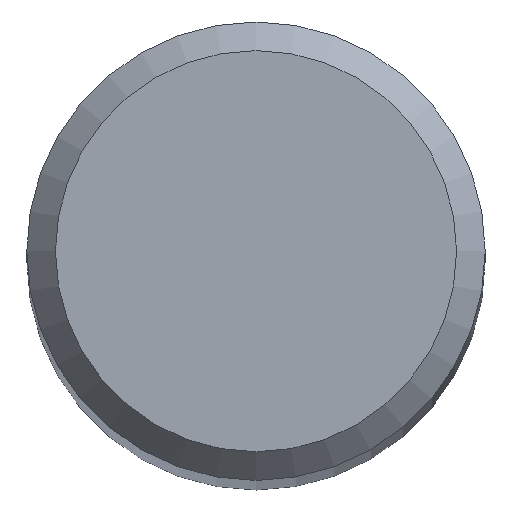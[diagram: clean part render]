
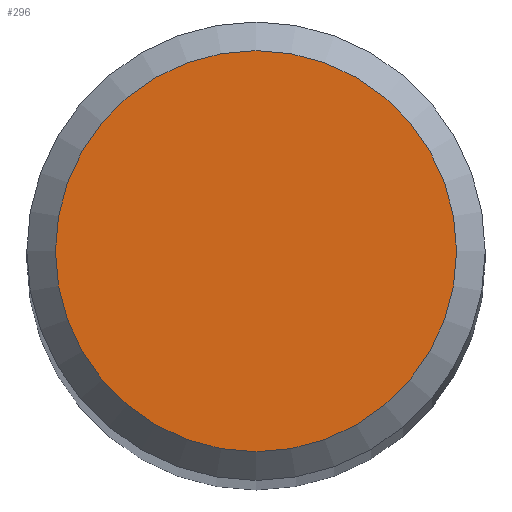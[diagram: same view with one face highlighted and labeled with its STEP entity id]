
A CAD part, top view. The second image highlights one B-rep face of the part: STEP entity #296.
In plain terms, the highlighted planar face has unit normal (0, 0, 1).
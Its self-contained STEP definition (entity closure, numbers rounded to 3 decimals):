
#4 = PLANE ( 'NONE',  #127 ) ;
#10 = VERTEX_POINT ( 'NONE', #100 ) ;
#32 = DIRECTION ( 'NONE',  ( 1., 0., 0. ) ) ;
#41 = EDGE_LOOP ( 'NONE', ( #43 ) ) ;
#43 = ORIENTED_EDGE ( 'NONE', *, *, #360, .T. ) ;
#100 = CARTESIAN_POINT ( 'NONE',  ( 3.5, 0., 127. ) ) ;
#127 = AXIS2_PLACEMENT_3D ( 'NONE', #226, #200, #291 ) ;
#170 = AXIS2_PLACEMENT_3D ( 'NONE', #318, #342, #32 ) ;
#200 = DIRECTION ( 'NONE',  ( 0., 0., 1. ) ) ;
#219 = CIRCLE ( 'NONE', #170, 3.5 ) ;
#226 = CARTESIAN_POINT ( 'NONE',  ( 0., 0., 127. ) ) ;
#291 = DIRECTION ( 'NONE',  ( 1., 0., 0. ) ) ;
#296 = ADVANCED_FACE ( 'NONE', ( #316 ), #4, .T. ) ;
#316 = FACE_OUTER_BOUND ( 'NONE', #41, .T. ) ;
#318 = CARTESIAN_POINT ( 'NONE',  ( 0., 0., 127. ) ) ;
#342 = DIRECTION ( 'NONE',  ( 0., 0., 1. ) ) ;
#360 = EDGE_CURVE ( 'NONE', #10, #10, #219, .T. ) ;
